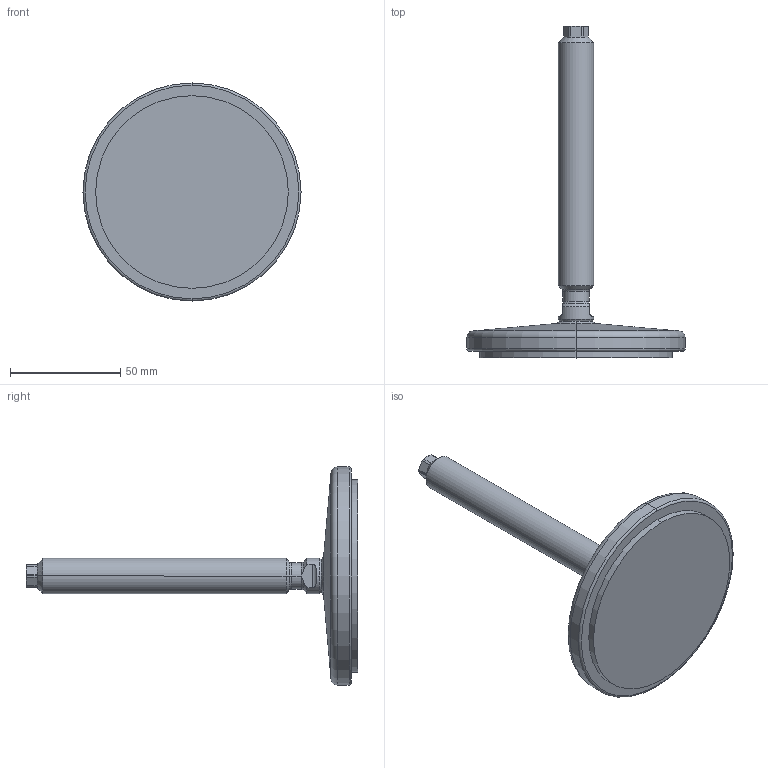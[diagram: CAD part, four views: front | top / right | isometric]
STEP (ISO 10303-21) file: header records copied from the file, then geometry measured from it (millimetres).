
FILE_DESCRIPTION (( 'STEP AP214' ), '1' );
FILE_NAME ('21-100-M16-125-D1-V.step', '2020-10-02T17:37:08', ( '' ), ( '' ), 'SwSTEP 2.0', 'SolidWorks 2019', '' );
FILE_SCHEMA (( 'AUTOMOTIVE_DESIGN' ));
Length unit declared in the file: millimetre
Products named in the file (3): WB21_Fußteller 21^WB21_V_D1-100-R10-B7 (M8 M10_M12_M16); 21-100-M16-125-D1-V; WB21_Spindel_V^WB21_V_M16-125
Assembly tree (2 placements, depth 2):
  21-100-M16-125-D1-V
    WB21_Fußteller 21^WB21_V_D1-100-R10-B7 (M8 M10_M12_M16)
    WB21_Spindel_V^WB21_V_M16-125
Bounding box: 99 x 150.64 x 99 mm (x, y, z)
Volume: 123411.6 mm3; surface area: 25869.6 mm2
Topology: 2 solids, 2 shells, 76 faces, 171 edges, 101 vertices
Faces by surface type: cylinder 25, plane 20, cone 17, torus 10, sphere 4
Entity records: 2391 total; most frequent: CARTESIAN_POINT 509, DIRECTION 390, ORIENTED_EDGE 342, EDGE_CURVE 171, AXIS2_PLACEMENT_3D 166, VERTEX_POINT 101, CIRCLE 85, EDGE_LOOP 78
